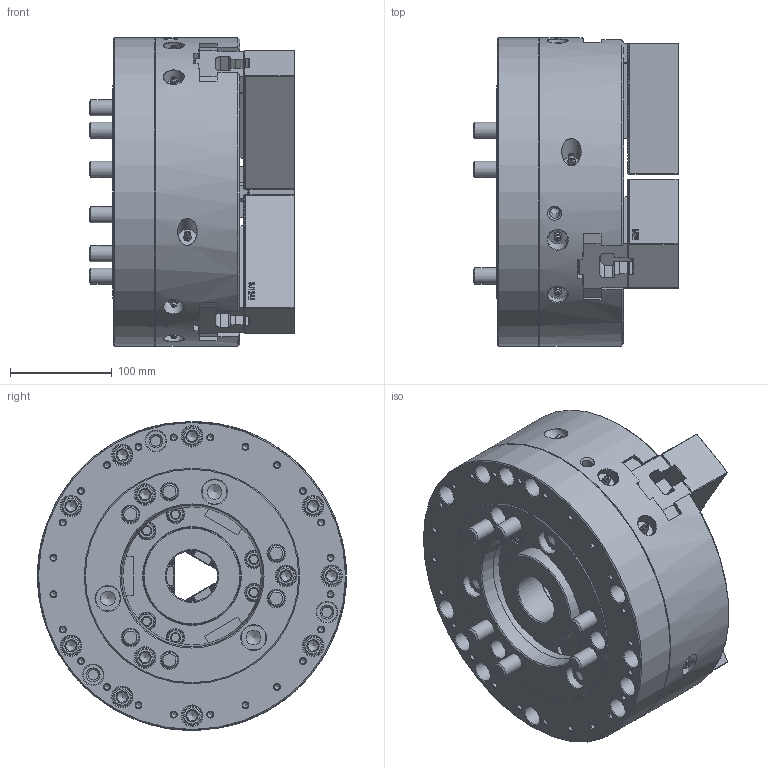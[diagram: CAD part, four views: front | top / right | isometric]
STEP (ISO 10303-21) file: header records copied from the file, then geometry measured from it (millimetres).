
FILE_DESCRIPTION (( 'STEP AP214' ), '1' );
FILE_NAME ('DT1_HOH-12K_OUTSIDE_VIEW_OC.STEP', '2024-05-09T04:43:02', ( '' ), ( '' ), 'SwSTEP 2.0', 'SolidWorks 2022', '' );
FILE_SCHEMA (( 'AUTOMOTIVE_DESIGN' ));
Length unit declared in the file: millimetre
Products named in the file (9): DT1_HOH-12K_M16x130^DT1_HOH-12K_ﾃﾞﾌｫﾙﾄ; DT1_HOH-12K_M14x45^DT1_HOH-12K_ﾃﾞﾌｫﾙﾄ; DT1_HOH-12K_TNUT^DT1_HOH-12K_ﾃﾞﾌｫﾙﾄ; DT1_HOH-12K_SOFTJAW^DT1_HOH-12K_ﾃﾞﾌｫﾙﾄ; DT1_HOH-12K_OUTSIDE_VIEW_OC; DT1_HOH-12K_DRAWNUT^DT1_HOH-12K_ﾃﾞﾌｫﾙﾄ; DT1_HOH-12K_M6x12^DT1_HOH-12K_ﾃﾞﾌｫﾙﾄ; DT1_HOH-12K_COVER^DT1_HOH-12K_ﾃﾞﾌｫﾙﾄ; Part3^DT1_HOH-12K_ﾃﾞﾌｫﾙﾄ
Assembly tree (24 placements, depth 2):
  DT1_HOH-12K_OUTSIDE_VIEW_OC
    DT1_HOH-12K_SOFTJAW^DT1_HOH-12K_ﾃﾞﾌｫﾙﾄ  x3
    DT1_HOH-12K_TNUT^DT1_HOH-12K_ﾃﾞﾌｫﾙﾄ  x3
    DT1_HOH-12K_DRAWNUT^DT1_HOH-12K_ﾃﾞﾌｫﾙﾄ
    DT1_HOH-12K_COVER^DT1_HOH-12K_ﾃﾞﾌｫﾙﾄ
    Part3^DT1_HOH-12K_ﾃﾞﾌｫﾙﾄ
    DT1_HOH-12K_M6x12^DT1_HOH-12K_ﾃﾞﾌｫﾙﾄ  x3
    DT1_HOH-12K_M14x45^DT1_HOH-12K_ﾃﾞﾌｫﾙﾄ  x6
    DT1_HOH-12K_M16x130^DT1_HOH-12K_ﾃﾞﾌｫﾙﾄ  x6
Bounding box: 202 x 304 x 304 mm (x, y, z)
Volume: 9197030.7 mm3; surface area: 788355.8 mm2
Topology: 24 solids, 30 shells, 5366 faces, 15113 edges, 9946 vertices
Faces by surface type: plane 4007, cylinder 679, cone 384, bspline 251, torus 36, sphere 9
Full cylindrical faces by diameter (mm): 2 x9, 5 x3, 5.2 x24, 6 x3, 6.6 x3, 10.22 x3, 10.3 x5, 11 x3, 12 x6, 14 x6, 15 x6, 16 x6, 16.27 x6, 17 x12, 18.27 x12, 19 x3, 20 x21, 21.33 x6, 22 x6, 24.21 x3, 24.33 x6, 25 x6, 50 x1, 78 x1, 83 x2, 89 x1, 95.8 x2, 96 x3, 104.5 x2, 136 x1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
Entity records: 145059 total; most frequent: CARTESIAN_POINT 51706, ORIENTED_EDGE 20524, DIRECTION 16746, EDGE_CURVE 10262, LINE 7588, VECTOR 7588, VERTEX_POINT 6941, AXIS2_PLACEMENT_3D 4579
